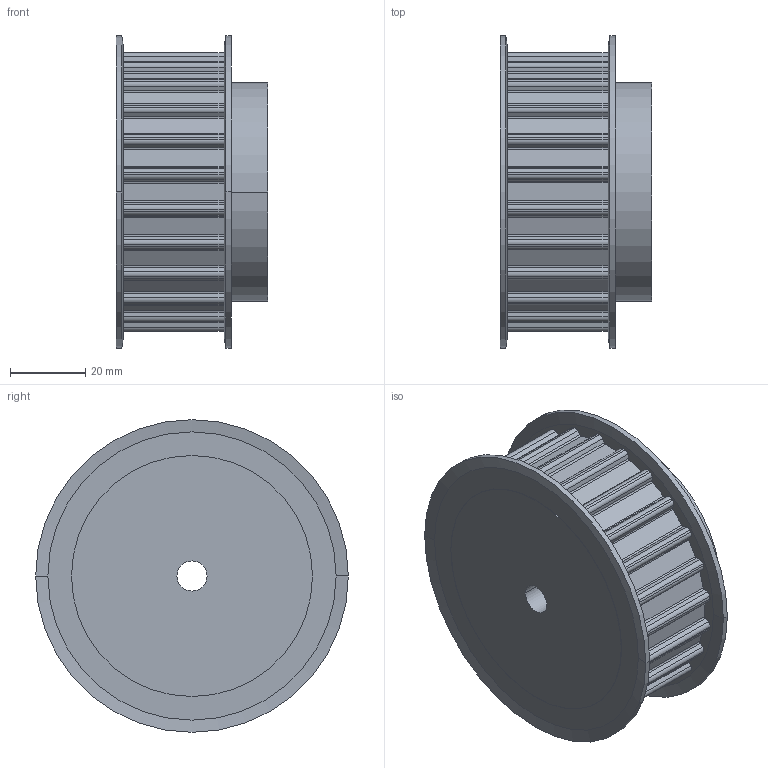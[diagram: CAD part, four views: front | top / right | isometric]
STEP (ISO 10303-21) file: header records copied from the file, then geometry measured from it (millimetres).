
FILE_DESCRIPTION( ( '' ), '1' );
FILE_NAME( 'C:/Users/Stangenbergd/Documents/CAD_Step/1/16832400.stp', '2021-10-19T09:45:34', ( '' ), ( '' ), ' ', ' ', ' ' );
FILE_SCHEMA( ( 'CONFIG_CONTROL_DESIGN' ) );
Length unit declared in the file: millimetre
Products named in the file (1): 1
Bounding box: 40.31 x 83 x 83 mm (x, y, z)
Volume: 148581 mm3; surface area: 24862.7 mm2
Topology: 1 solids, 1 shells, 219 faces, 628 edges, 416 vertices
Faces by surface type: cylinder 132, plane 79, cone 8
Entity records: 7318 total; most frequent: DIRECTION 1340, CARTESIAN_POINT 1264, ORIENTED_EDGE 1256, EDGE_CURVE 628, AXIS2_PLACEMENT_3D 492, VERTEX_POINT 416, LINE 356, VECTOR 356
